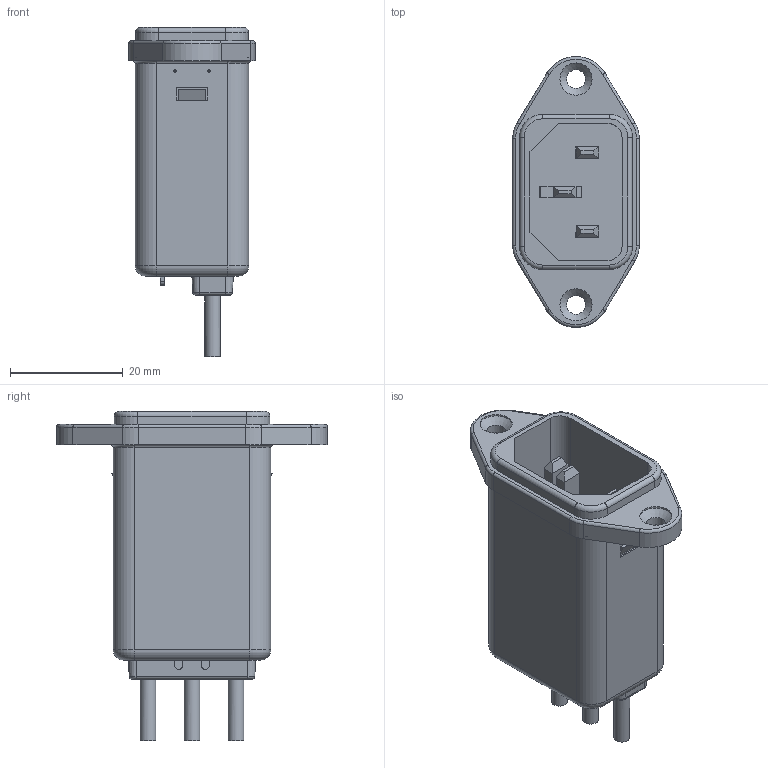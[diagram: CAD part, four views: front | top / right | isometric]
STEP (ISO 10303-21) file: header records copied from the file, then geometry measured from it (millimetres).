
FILE_DESCRIPTION((''),'2;1');
FILE_NAME('D:\_ PRODUCT\FN_PART_FOR_FN9222-XX-07\FN_UPDATE\DB_07 version_Update\3D_inventor\FN9222_07.stp','2012-01-12T14:08:21',('sayan.penton'),(''),'Autodesk Inventor 2010','Autodesk Inventor 2010','');
FILE_SCHEMA(('AUTOMOTIVE_DESIGN { 1 0 10303 214 1 1 1 1 }'));
Length unit declared in the file: millimetre
Products named in the file (1): Part2
Bounding box: 22.4 x 48 x 58.28 mm (x, y, z)
Volume: 9523.6 mm3; surface area: 19874.3 mm2
Topology: 7 solids, 7 shells, 597 faces, 1692 edges, 1084 vertices
Faces by surface type: plane 386, cylinder 121, bspline 52, torus 28, cone 10
Full cylindrical faces by diameter (mm): 2 x4, 2.8 x3, 3.2 x3, 3.3 x2, 4 x2, 5.7 x2
Entity records: 20408 total; most frequent: CARTESIAN_POINT 4179, ORIENTED_EDGE 3278, DIRECTION 3162, EDGE_CURVE 1639, VECTOR 1192, LINE 1192, VERTEX_POINT 1064, AXIS2_PLACEMENT_3D 985
